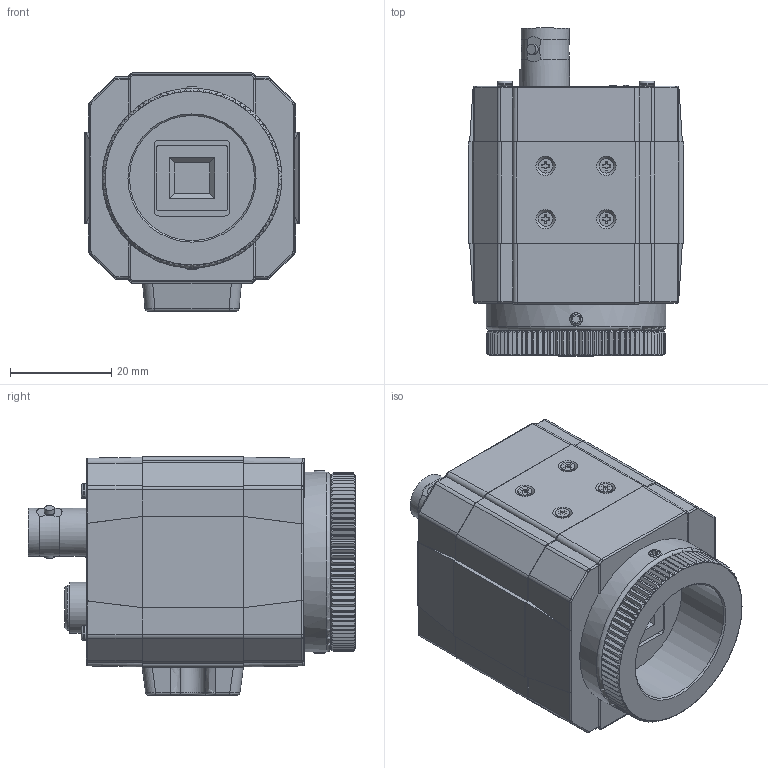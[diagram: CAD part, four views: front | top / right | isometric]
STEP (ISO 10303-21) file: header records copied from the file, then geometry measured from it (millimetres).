
FILE_DESCRIPTION(('STEP AP214'),'1');
FILE_NAME('GR-i700.stp','2023-07-24T08:48:32',(' '),(' '),'Spatial InterOp 3D',' ',' ');
FILE_SCHEMA(('AUTOMOTIVE_DESIGN { 1 0 10303 214 1 1 1 1 }'));
Length unit declared in the file: metre
Products named in the file (2): GR-i700; Component1
Assembly tree (1 placements, depth 2):
  GR-i700
    Component1
Bounding box: 42.5 x 64.7 x 47 mm (x, y, z)
Volume: 75606.5 mm3; surface area: 14855 mm2
Topology: 1 solids, 7 shells, 1084 faces, 2640 edges, 1704 vertices
Faces by surface type: plane 742, cylinder 232, torus 53, bspline 30, cone 25, sphere 2
Full cylindrical faces by diameter (mm): 2 x8, 2.3 x4, 2.5 x4, 2.8 x5, 3 x4, 3.8 x4, 4 x4, 5 x1, 5.5 x1, 6 x1, 7 x1, 8.3 x1, 8.9 x1, 9.5 x2, 10 x1, 13.3 x1, 13.5 x1, 24.7 x1, 34.3 x1, 35.5 x1
Entity records: 41650 total; most frequent: CARTESIAN_POINT 7780, DIRECTION 5201, ORIENTED_EDGE 5020, EDGE_CURVE 2510, AXIS2_PLACEMENT_3D 1782, VERTEX_POINT 1673, LINE 1637, VECTOR 1637
